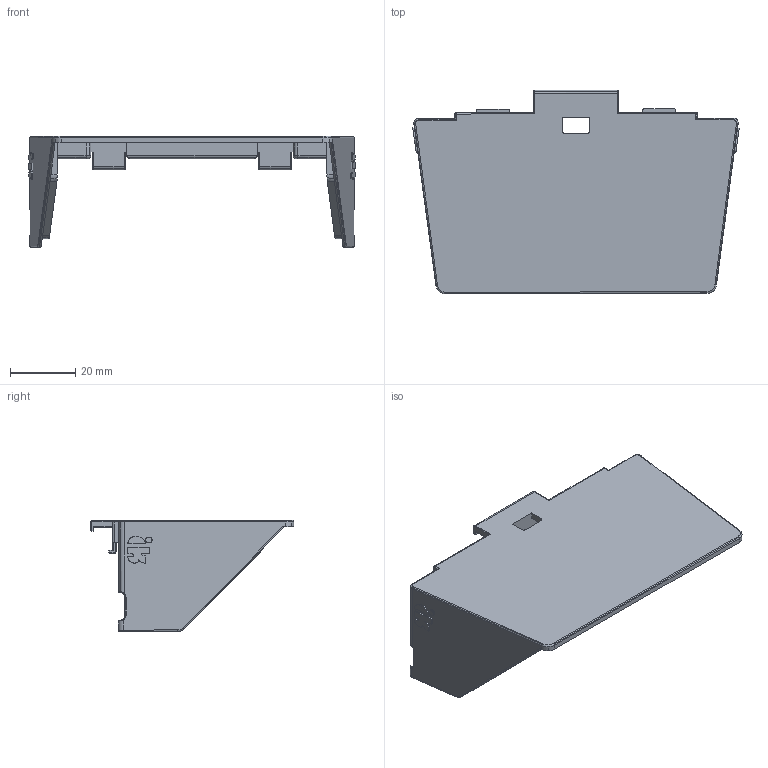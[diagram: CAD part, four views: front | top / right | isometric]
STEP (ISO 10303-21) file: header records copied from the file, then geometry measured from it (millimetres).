
FILE_DESCRIPTION(('STEP AP214'),'1');
FILE_NAME('03-Magnet Protect Front Cover v19.stp','2020-04-02T22:05:36',(' '),(' '),'Spatial InterOp 3D',' ',' ');
FILE_SCHEMA(('AUTOMOTIVE_DESIGN { 1 0 10303 214 1 1 1 1 }'));
Length unit declared in the file: metre
Products named in the file (1): Corps111
Bounding box: 100.14 x 62.45 x 34.16 mm (x, y, z)
Volume: 18375.3 mm3; surface area: 17137.5 mm2
Topology: 1 solids, 1 shells, 333 faces, 900 edges, 574 vertices
Faces by surface type: cylinder 158, plane 95, extrusion 40, torus 26, bspline 10, sphere 4
Entity records: 13599 total; most frequent: CARTESIAN_POINT 5144, ORIENTED_EDGE 1792, DIRECTION 1754, EDGE_CURVE 896, AXIS2_PLACEMENT_3D 634, VERTEX_POINT 574, VECTOR 486, LINE 446
